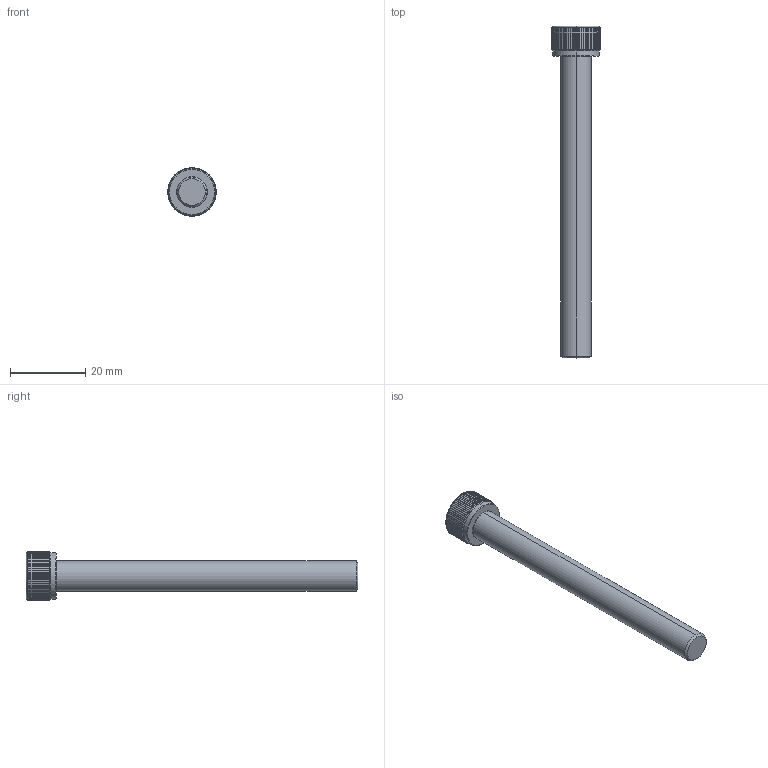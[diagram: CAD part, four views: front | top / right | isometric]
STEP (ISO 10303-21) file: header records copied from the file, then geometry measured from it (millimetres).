
FILE_DESCRIPTION (( 'STEP AP203' ), '1' );
FILE_NAME ('LGDT-304-M8x80.STEP', '2026-08-10T06:55:47', ( '' ), ( '' ), 'SwSTEP 2.0', 'SolidWorks 2020', '' );
FILE_SCHEMA (( 'CONFIG_CONTROL_DESIGN' ));
Length unit declared in the file: millimetre
Products named in the file (1): LGDT-304-M8x80
Bounding box: 12.8 x 88 x 12.8 mm (x, y, z)
Volume: 4869.7 mm3; surface area: 2664.2 mm2
Topology: 1 solids, 1 shells, 204 faces, 576 edges, 376 vertices
Faces by surface type: cylinder 175, cone 11, plane 10, torus 8
Entity records: 8367 total; most frequent: CARTESIAN_POINT 3208, ORIENTED_EDGE 1152, DIRECTION 988, EDGE_CURVE 576, AXIS2_PLACEMENT_3D 398, VERTEX_POINT 376, EDGE_LOOP 206, FACE_OUTER_BOUND 204
